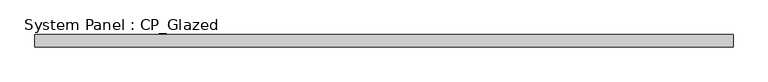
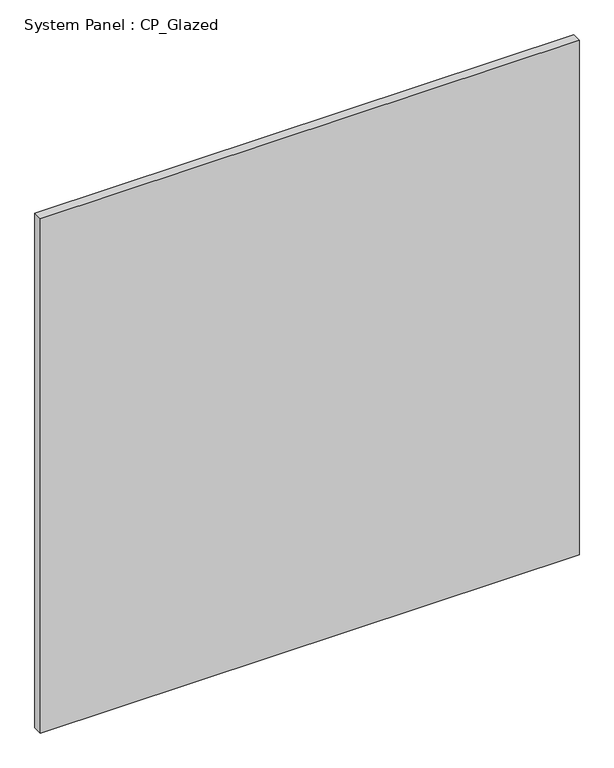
"""IFC4 building model written with IfcOpenShell, lengths in millimetres: plate geometry, System Panel : CP_Glazed."""

from ifc_helpers import new_model, si_unit, origin, origin_with_axes, place, context, project, spatial, polyline, outline, extrude, source, transform, mapped, element, save


def system_panel_cp_glazed_cd0a967f(model_context):
    return source(origin(), model_context, "Body", "SweptSolid", [
        extrude(outline(polyline([(732.79, -44.45), (-732.79, -44.45), (-732.79, -19.05), (732.79, -19.05), (732.79, -44.45)])), origin_with_axes(), (0.0, 0.0, 1.0), 1479.55),
    ])


if __name__ == "__main__":
    model = new_model("IFC4")
    model_context = context("Model", 3, world=origin())
    ifc_project = project(units=[si_unit("LENGTHUNIT", "METRE", prefix="MILLI")], contexts=[model_context])
    site = spatial("IfcSite", under=ifc_project)
    building = spatial("IfcBuilding", under=site)
    placement = place(None, origin())
    system_panel_cp_glazed_shape = system_panel_cp_glazed_cd0a967f(model_context)
    element("IfcPlate", 1, ObjectType="System Panel : CP_Glazed", at=placement, inside=building, context=model_context, shape_type="MappedRepresentation", body=[
        mapped(system_panel_cp_glazed_shape, transform((0.0, 0.0, 0.0), x_axis=(1.0, 0.0, 0.0), y_axis=(0.0, 1.0, 0.0), z_axis=(0.0, 0.0, 1.0))),
    ])
    save(model, "model.ifc")
